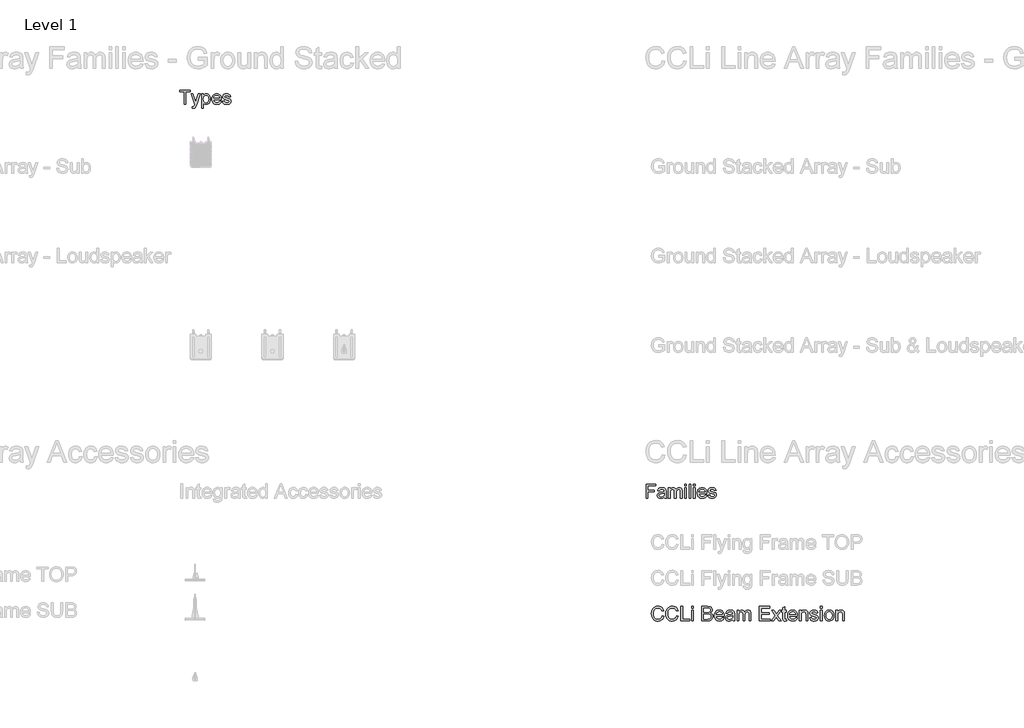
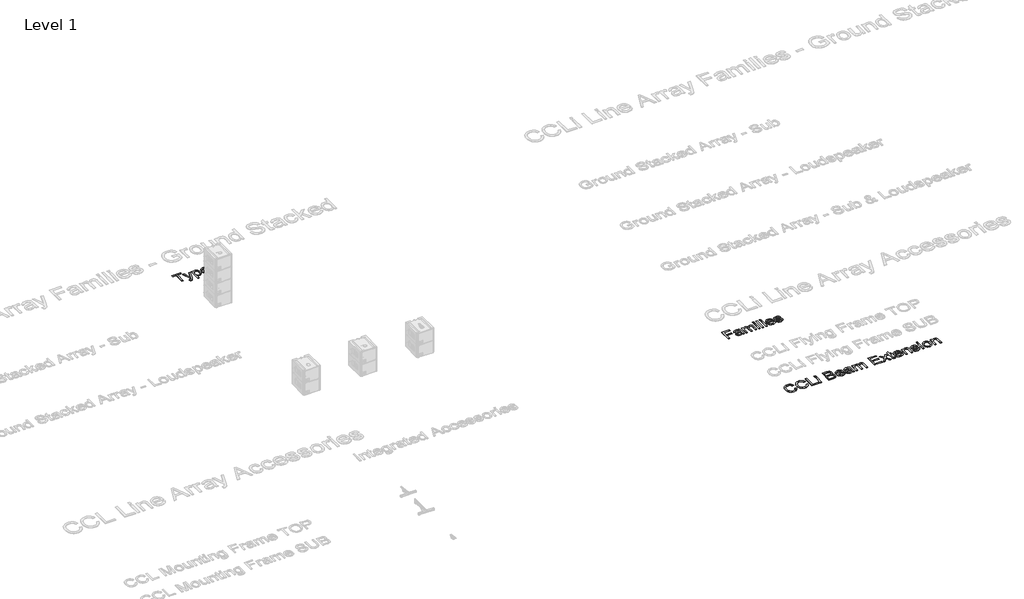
# One storey, part 11 of 31: 3 proxies.
"""IFC4 building model written with IfcOpenShell, lengths in millimetres."""

from ifc_helpers import new_model, si_unit, origin, origin_with_axes, place, context, project, spatial, polyline, outline, extrude, element, save

model = new_model("IFC4")

# Units and contexts
model_context = context("Model", 3, world=origin())
ifc_project = project(units=[si_unit("LENGTHUNIT", "METRE", prefix="MILLI")], contexts=[model_context])

# Site, building, storey
site = spatial("IfcSite", under=ifc_project)
building = spatial("IfcBuilding", under=site)
storey = spatial("IfcBuildingStorey", under=building, Name="Level 1", Elevation=0.0)

# Proxies
placement = place(None, origin())
element("IfcBuildingElementProxy", 1, Name="400mm Arial", ObjectType="400mm Arial", at=placement, inside=storey, context=model_context, shape_type="SweptSolid", body=[
    extrude(outline(polyline([(-11345.9583027, -2671.3757633), (-11345.9583027, -2328.5878845), (-11474.5037572, -2328.5878845), (-11474.5037572, -2279.6181875), (-11168.4431512, -2279.6181875), (-11168.4431512, -2328.5878845), (-11296.9886057, -2328.5878845), (-11296.9886057, -2671.3757633), (-11345.9583027, -2671.3757633)])), origin_with_axes(), (0.0, 0.0, 1.0), 5.0),
    extrude(outline(polyline([(-11119.4734542, -2781.5575815), (-11125.5946663, -2734.4051193), (-11100.7272421, -2738.7090966), (-11087.6479334, -2737.358126), (-11077.4857648, -2733.305214), (-11063.2348179, -2718.2412936), (-11049.8446663, -2682.1835284), (-11046.0189088, -2670.32368), (-11150.0795148, -2383.6787936), (-11098.5274315, -2383.6787936), (-11043.2452345, -2543.4998163), (-11024.0208027, -2607.3899678), (-11004.7963709, -2550.8643996), (-10948.0795148, -2383.6787936), (-10896.9100072, -2383.6787936), (-10997.0492118, -2678.2621269), (-11023.0643633, -2742.1522784), (-11036.3827819, -2762.5483485), (-11051.4706133, -2776.6797406), (-11068.9734542, -2784.9290303), (-11089.5369012, -2787.6787936), (-11119.4734542, -2781.5575815)])), origin_with_axes(), (0.0, 0.0, 1.0), 5.0),
    extrude(outline(polyline([(-10856.261333, -2781.5575815), (-10856.261333, -2383.6787936), (-10807.291636, -2383.6787936), (-10807.291636, -2431.6920512), (-10791.3190982, -2408.0082207), (-10773.4336815, -2391.0911989), (-10752.5833027, -2380.9409858), (-10727.7158785, -2377.5575815), (-10694.5991644, -2382.2919565), (-10665.6429618, -2396.4950815), (-10642.0667307, -2419.306161), (-10625.0899315, -2449.8643996), (-10614.832119, -2485.9460758), (-10611.4128482, -2525.3274678), (-10615.2744722, -2567.2075578), (-10626.8593444, -2604.6641156), (-10645.7968444, -2635.7962178), (-10671.7163519, -2658.7029413), (-10701.9039703, -2672.7984669), (-10733.6458027, -2677.4969754), (-10756.1579949, -2674.3526809), (-10776.2551777, -2664.9197974), (-10793.4591313, -2650.6808059), (-10807.291636, -2633.1181875), (-10807.291636, -2781.5575815), (-10856.261333, -2781.5575815)]), holes=[polyline([(-10807.291636, -2529.822733), (-10801.9953529, -2573.7233012), (-10795.374999, -2590.7240114), (-10786.1065035, -2604.4250057), (-10762.6617828, -2622.5017103), (-10749.2447314, -2627.0208864), (-10734.697886, -2628.5272784), (-10719.9418195, -2626.9670867), (-10706.2796805, -2622.2865114), (-10682.2371853, -2603.5642103), (-10672.6757802, -2589.367063), (-10665.8462052, -2571.7386894), (-10660.3825451, -2526.1882633), (-10665.7146947, -2482.526805), (-10672.3798818, -2465.3945843), (-10681.7111436, -2451.3947027), (-10705.1199978, -2432.7441345), (-10718.3846166, -2428.0814925), (-10732.6893633, -2426.5272784), (-10746.9492769, -2428.1801253), (-10760.3663283, -2433.1386657), (-10784.6718444, -2452.9728277), (-10794.5680032, -2467.6930277), (-10801.6366881, -2485.4080786), (-10805.8778991, -2506.1179804), (-10807.291636, -2529.822733)])]), origin_with_axes(), (0.0, 0.0, 1.0), 5.0),
    extrude(outline(polyline([(-10354.8958027, -2585.6787936), (-10306.8825451, -2591.8000057), (-10314.2441396, -2611.0304153), (-10324.1821427, -2627.9773258), (-10336.6965544, -2642.6407372), (-10351.7873747, -2655.0206496), (-10369.2991822, -2664.8540422), (-10389.0765555, -2671.877894), (-10435.4279997, -2677.4969754), (-10465.8128837, -2675.0729993), (-10492.8860963, -2667.801071), (-10516.6476375, -2655.6811906), (-10537.0975072, -2638.713358), (-10553.5422871, -2617.3698151), (-10565.2885584, -2592.122804), (-10572.3363212, -2562.9723246), (-10574.6855754, -2529.9183769), (-10572.3124102, -2495.7436018), (-10565.1929144, -2465.6217387), (-10553.3270882, -2439.5527874), (-10536.7149315, -2417.5367481), (-10516.3188614, -2400.0458627), (-10493.1012951, -2387.5523731), (-10467.0622326, -2380.0562794), (-10438.2016739, -2377.5575815), (-10410.2706547, -2380.0503016), (-10385.0116881, -2387.5284621), (-10362.4247741, -2399.992063), (-10342.5099125, -2417.4411042), (-10326.2534317, -2439.4093215), (-10314.6416597, -2465.4304508), (-10307.6745965, -2495.504492), (-10305.3522421, -2529.6314451), (-10305.6391739, -2542.8303087), (-10525.7158785, -2542.8303087), (-10522.8794379, -2562.3715611), (-10517.2394343, -2579.4858485), (-10508.7958678, -2594.173171), (-10497.5487383, -2606.4335284), (-10469.1305328, -2623.0038409), (-10434.4715603, -2628.5272784), (-10408.4085868, -2625.9688031), (-10386.4583027, -2618.2933769), (-10368.620708, -2605.0227803), (-10354.8958027, -2585.6787936)]), holes=[polyline([(-10525.7158785, -2493.8606118), (-10354.3219391, -2493.8606118), (-10360.9452819, -2467.9889262), (-10373.9289466, -2449.4818239), (-10387.2832317, -2439.4392103), (-10402.4786625, -2432.2659148), (-10438.3929618, -2426.5272784), (-10471.4020764, -2431.106232), (-10498.6964656, -2444.8430928), (-10517.6698321, -2466.2553798), (-10525.7158785, -2493.8606118)])]), origin_with_axes(), (0.0, 0.0, 1.0), 5.0),
    extrude(outline(polyline([(-10274.7461815, -2585.6787936), (-10225.7764845, -2579.5575815), (-10218.0532364, -2600.5036042), (-10203.1088709, -2615.9022784), (-10180.847744, -2625.3710284), (-10151.1742118, -2628.5272784), (-10121.8593444, -2625.6340493), (-10101.2480754, -2616.9543618), (-10089.0534732, -2604.3771837), (-10084.9886057, -2589.791483), (-10089.0773841, -2577.3099489), (-10101.3437194, -2567.7933769), (-10151.7480754, -2553.8293618), (-10225.4895527, -2529.870555), (-10244.1520764, -2517.8313741), (-10257.6737383, -2501.8947027), (-10265.8871616, -2483.0767576), (-10268.6249694, -2462.3937557), (-10266.4251588, -2443.4203892), (-10259.8257269, -2425.9055928), (-10249.4244485, -2410.5427851), (-10235.8190982, -2398.0253845), (-10204.6869959, -2383.5353277), (-10162.5558406, -2377.5575815), (-10130.6824978, -2379.9606354), (-10102.9696663, -2387.1697974), (-10080.6846285, -2398.4796932), (-10065.0946663, -2413.1849489), (-10054.7651209, -2432.3735142), (-10048.261333, -2457.133339), (-10097.23103, -2463.2545512), (-10103.4120196, -2447.8439214), (-10115.6424883, -2436.2351383), (-10134.0419911, -2428.9542434), (-10158.730083, -2426.5272784), (-10186.8494012, -2428.846644), (-10205.5956133, -2435.8047406), (-10216.1403576, -2445.8473542), (-10219.6552724, -2457.4202709), (-10213.8209921, -2471.6712178), (-10195.5529997, -2482.478983), (-10153.3740224, -2492.9041724), (-10081.4976019, -2515.9543618), (-10062.51228, -2526.9773258), (-10048.1178671, -2542.0651572), (-10039.0436483, -2561.2656781), (-10036.0189088, -2584.6267103), (-10039.56969, -2608.776805), (-10050.2220338, -2631.4922406), (-10067.5694533, -2650.9916487), (-10091.2054618, -2665.493661), (-10119.7551777, -2674.4961468), (-10151.8437194, -2677.4969754), (-10178.1996024, -2676.0503608), (-10201.2199031, -2671.7105171), (-10220.9046214, -2664.4774442), (-10237.2537572, -2654.3511421), (-10250.6080423, -2641.3794328), (-10261.308208, -2625.6101383), (-10269.3542544, -2607.0432585), (-10274.7461815, -2585.6787936)])), origin_with_axes(), (0.0, 0.0, 1.0), 5.0),
])
element("IfcBuildingElementProxy", 2, Name="400mm Arial", ObjectType="400mm Arial", at=placement, inside=storey, context=model_context, shape_type="SweptSolid", body=[
    extrude(outline(polyline([(1556.1023034, -13671.3757633), (1556.1023034, -13279.6181875), (1819.3144246, -13279.6181875), (1819.3144246, -13328.5878845), (1605.0720003, -13328.5878845), (1605.0720003, -13444.8909148), (1788.708364, -13444.8909148), (1788.708364, -13493.8606118), (1605.0720003, -13493.8606118), (1605.0720003, -13671.3757633), (1556.1023034, -13671.3757633)])), origin_with_axes(), (0.0, 0.0, 1.0), 5.0),
    extrude(outline(polyline([(2064.1629094, -13634.6484906), (2040.7660107, -13654.7098068), (2016.6756935, -13667.8369375), (1991.3420051, -13675.0819659), (1964.2149928, -13677.4969754), (1942.4111634, -13676.0443831), (1923.2913422, -13671.6866061), (1906.855529, -13664.4236444), (1893.1037238, -13654.2554981), (1882.2451478, -13641.8277638), (1874.4890221, -13627.7860379), (1869.8353467, -13612.1303206), (1868.2841215, -13594.8606118), (1870.6273981, -13574.5601856), (1877.6572276, -13556.1248163), (1888.5008592, -13540.3435663), (1902.285542, -13528.0054981), (1936.5738943, -13511.9373163), (1978.9441594, -13504.572733), (2029.0137617, -13496.8255739), (2063.8759776, -13487.7393996), (2064.1629094, -13476.8359906), (2060.7914606, -13454.9813504), (2050.677114, -13440.6825815), (2028.0573223, -13430.0661042), (1996.5426443, -13426.5272784), (1967.3712428, -13428.8825104), (1946.9990837, -13435.9482065), (1933.1068015, -13449.0155597), (1923.3750306, -13469.3757633), (1874.4053337, -13463.2545512), (1882.9056888, -13436.4742481), (1895.5904662, -13415.4325815), (1913.6432598, -13399.3404887), (1938.2476632, -13387.4089072), (1968.3396376, -13380.0204129), (2002.8551443, -13377.5575815), (2035.9599028, -13379.7334811), (2062.2022087, -13386.26118), (2081.9885486, -13396.0766392), (2095.7254094, -13408.1158201), (2104.8354946, -13423.0004082), (2110.7415079, -13441.352089), (2113.1326064, -13484.2005739), (2113.1326064, -13545.1257633), (2115.6193488, -13630.2010474), (2125.3750306, -13671.3757633), (2076.4053337, -13671.3757633), (2068.5625306, -13654.3511421), (2064.1629094, -13634.6484906)]), holes=[polyline([(2064.1629094, -13536.7090966), (2031.2613943, -13544.8627425), (1985.1610155, -13551.7251951), (1943.0298602, -13559.6636421), (1932.0666736, -13565.0914356), (1923.9488943, -13572.5755739), (1918.9275875, -13581.5421932), (1917.2538185, -13591.41743), (1920.9002437, -13605.9792197), (1931.8395193, -13617.9108012), (1949.8325354, -13625.8731591), (1974.6401821, -13628.5272784), (2000.9422655, -13625.5981828), (2024.1837428, -13616.8108959), (2043.0255988, -13603.8630976), (2056.1288185, -13588.4524678), (2061.9391878, -13572.5755739), (2063.8759776, -13550.5774678), (2064.1629094, -13536.7090966)])]), origin_with_axes(), (0.0, 0.0, 1.0), 5.0),
    extrude(outline(polyline([(2180.4659397, -13671.3757633), (2180.4659397, -13383.6787936), (2229.4356367, -13383.6787936), (2229.4356367, -13431.0225436), (2244.1648034, -13409.2755029), (2263.1023034, -13392.2389262), (2285.6025401, -13381.2279176), (2311.019917, -13377.5575815), (2338.2545287, -13381.2996506), (2360.0852579, -13392.525858), (2376.3925496, -13410.4949631), (2387.0568488, -13434.4657254), (2404.906399, -13409.5684124), (2425.2666026, -13391.7846175), (2448.1374596, -13381.1143405), (2473.51897, -13377.5575815), (2493.1229887, -13379.0370737), (2510.3299312, -13383.4755502), (2525.1397974, -13390.8730112), (2537.5525875, -13401.2294565), (2547.3650579, -13414.6644411), (2554.3739653, -13431.2975199), (2558.5793098, -13451.128693), (2559.9810912, -13474.1579603), (2559.9810912, -13671.3757633), (2511.0113943, -13671.3757633), (2511.0113943, -13495.1996269), (2506.4683071, -13454.3118428), (2500.0840742, -13443.0378135), (2490.0175496, -13434.1787936), (2477.0697513, -13428.4401572), (2462.0416973, -13426.5272784), (2435.5124596, -13431.4290303), (2413.8849738, -13446.134286), (2405.495207, -13457.4142931), (2399.5025164, -13471.6473068), (2394.708364, -13508.9723542), (2394.708364, -13671.3757633), (2345.738667, -13671.3757633), (2345.738667, -13489.7479224), (2342.9052153, -13462.0590019), (2334.4048602, -13442.3085284), (2319.4485392, -13430.4725909), (2297.2471897, -13426.5272784), (2278.3814227, -13429.1574868), (2260.9981367, -13437.0481118), (2246.6515458, -13450.0078656), (2236.895864, -13467.8454603), (2231.3006935, -13492.5933296), (2229.4356367, -13526.2839072), (2229.4356367, -13671.3757633), (2180.4659397, -13671.3757633)])), origin_with_axes(), (0.0, 0.0, 1.0), 5.0),
    extrude(outline(polyline([(2633.4356367, -13328.5878845), (2633.4356367, -13279.6181875), (2682.4053337, -13279.6181875), (2682.4053337, -13328.5878845), (2633.4356367, -13328.5878845)])), origin_with_axes(), (0.0, 0.0, 1.0), 5.0),
    extrude(outline(polyline([(2633.4356367, -13671.3757633), (2633.4356367, -13383.6787936), (2682.4053337, -13383.6787936), (2682.4053337, -13671.3757633), (2633.4356367, -13671.3757633)])), origin_with_axes(), (0.0, 0.0, 1.0), 5.0),
    extrude(outline(polyline([(2755.8598791, -13671.3757633), (2755.8598791, -13279.6181875), (2804.8295761, -13279.6181875), (2804.8295761, -13671.3757633), (2755.8598791, -13671.3757633)])), origin_with_axes(), (0.0, 0.0, 1.0), 5.0),
    extrude(outline(polyline([(2878.2841215, -13328.5878845), (2878.2841215, -13279.6181875), (2927.2538185, -13279.6181875), (2927.2538185, -13328.5878845), (2878.2841215, -13328.5878845)])), origin_with_axes(), (0.0, 0.0, 1.0), 5.0),
    extrude(outline(polyline([(2878.2841215, -13671.3757633), (2878.2841215, -13383.6787936), (2927.2538185, -13383.6787936), (2927.2538185, -13671.3757633), (2878.2841215, -13671.3757633)])), origin_with_axes(), (0.0, 0.0, 1.0), 5.0),
    extrude(outline(polyline([(3202.1345003, -13585.6787936), (3250.1477579, -13591.8000057), (3242.7861634, -13611.0304153), (3232.8481604, -13627.9773258), (3220.3337487, -13642.6407372), (3205.2429284, -13655.0206496), (3187.7311208, -13664.8540422), (3167.9537475, -13671.877894), (3121.6023034, -13677.4969754), (3091.2174194, -13675.0729993), (3064.1442068, -13667.801071), (3040.3826656, -13655.6811906), (3019.9327958, -13638.713358), (3003.488016, -13617.3698151), (2991.7417446, -13592.122804), (2984.6939819, -13562.9723246), (2982.3447276, -13529.9183769), (2984.7178928, -13495.7436018), (2991.8373886, -13465.6217387), (3003.7032148, -13439.5527874), (3020.3153715, -13417.5367481), (3040.7114416, -13400.0458627), (3063.9290079, -13387.5523731), (3089.9680704, -13380.0562794), (3118.8286291, -13377.5575815), (3146.7596483, -13380.0503016), (3172.0186149, -13387.5284621), (3194.605529, -13399.992063), (3214.5203905, -13417.4411042), (3230.7768713, -13439.4093215), (3242.3886433, -13465.4304508), (3249.3557065, -13495.504492), (3251.6780609, -13529.6314451), (3251.3911291, -13542.8303087), (3031.3144246, -13542.8303087), (3034.1508652, -13562.3715611), (3039.7908687, -13579.4858485), (3048.2344352, -13594.173171), (3059.4815647, -13606.4335284), (3087.8997702, -13623.0038409), (3122.5587428, -13628.5272784), (3148.6217162, -13625.9688031), (3170.5720003, -13618.2933769), (3188.409595, -13605.0227803), (3202.1345003, -13585.6787936)]), holes=[polyline([(3031.3144246, -13493.8606118), (3202.708364, -13493.8606118), (3196.0850212, -13467.9889262), (3183.1013564, -13449.4818239), (3169.7470714, -13439.4392103), (3154.5516405, -13432.2659148), (3118.6373412, -13426.5272784), (3085.6282267, -13431.106232), (3058.3338375, -13444.8430928), (3039.360471, -13466.2553798), (3031.3144246, -13493.8606118)])]), origin_with_axes(), (0.0, 0.0, 1.0), 5.0),
    extrude(outline(polyline([(3282.2841215, -13585.6787936), (3331.2538185, -13579.5575815), (3338.9770666, -13600.5036042), (3353.9214321, -13615.9022784), (3376.182559, -13625.3710284), (3405.8560912, -13628.5272784), (3435.1709587, -13625.6340493), (3455.7822276, -13616.9543618), (3467.9768299, -13604.3771837), (3472.0416973, -13589.791483), (3467.9529189, -13577.3099489), (3455.6865837, -13567.7933769), (3405.2822276, -13553.8293618), (3331.5407503, -13529.870555), (3312.8782267, -13517.8313741), (3299.3565647, -13501.8947027), (3291.1431414, -13483.0767576), (3288.4053337, -13462.3937557), (3290.6051443, -13443.4203892), (3297.2045761, -13425.9055928), (3307.6058545, -13410.5427851), (3321.2112049, -13398.0253845), (3352.3433071, -13383.5353277), (3394.4744625, -13377.5575815), (3426.3478053, -13379.9606354), (3454.0606367, -13387.1697974), (3476.3456746, -13398.4796932), (3491.9356367, -13413.1849489), (3502.2651821, -13432.3735142), (3508.76897, -13457.133339), (3459.7992731, -13463.2545512), (3453.6182835, -13447.8439214), (3441.3878147, -13436.2351383), (3422.9883119, -13428.9542434), (3398.30022, -13426.5272784), (3370.1809018, -13428.846644), (3351.4346897, -13435.8047406), (3340.8899454, -13445.8473542), (3337.3750306, -13457.4202709), (3343.2093109, -13471.6712178), (3361.4773034, -13482.478983), (3403.6562806, -13492.9041724), (3475.5327011, -13515.9543618), (3494.5180231, -13526.9773258), (3508.9124359, -13542.0651572), (3517.9866547, -13561.2656781), (3521.0113943, -13584.6267103), (3517.460613, -13608.776805), (3506.8082693, -13631.4922406), (3489.4608498, -13650.9916487), (3465.8248412, -13665.493661), (3437.2751253, -13674.4961468), (3405.1865837, -13677.4969754), (3378.8307006, -13676.0503608), (3355.8104, -13671.7105171), (3336.1256817, -13664.4774442), (3319.7765458, -13654.3511421), (3306.4222607, -13641.3794328), (3295.722095, -13625.6101383), (3287.6760486, -13607.0432585), (3282.2841215, -13585.6787936)])), origin_with_axes(), (0.0, 0.0, 1.0), 5.0),
])
element("IfcBuildingElementProxy", 3, Name="400mm Arial", ObjectType="400mm Arial", at=placement, inside=storey, context=model_context, shape_type="SweptSolid", body=[
    extrude(outline(polyline([(2002.8770376, -16954.6815806), (2053.1051927, -16967.6310268), (2043.1662474, -16998.8672739), (2029.928627, -17026.1610523), (2013.3923313, -17049.5123619), (1993.5573604, -17068.9212029), (1970.871304, -17084.1791086), (1945.7817519, -17095.0776127), (1918.2887042, -17101.6167152), (1888.3921607, -17103.796416), (1857.7629189, -17102.1470784), (1830.1319154, -17097.1990655), (1805.4991501, -17088.9523775), (1783.8646231, -17077.4070142), (1764.9309631, -17062.734654), (1748.4007988, -17045.106975), (1734.2741302, -17024.5239774), (1722.5509573, -17000.9856611), (1706.7688197, -16949.1142998), (1701.5081071, -16893.5641185), (1707.4555327, -16834.9727794), (1714.8898147, -16808.6753481), (1725.2978095, -16784.3767423), (1738.4465251, -16762.4785666), (1754.1029697, -16743.3824253), (1772.2671432, -16727.0883186), (1792.9390457, -16713.5962464), (1815.4166356, -16703.0165734), (1838.9978715, -16695.4596641), (1889.4712812, -16689.4141366), (1918.1997994, -16691.3700426), (1944.5432159, -16697.2377604), (1968.5015308, -16707.0172901), (1990.0747442, -16720.7086317), (2008.9072366, -16737.9500345), (2024.643389, -16758.379748), (2037.2832012, -16781.9977721), (2046.8266733, -16808.8041068), (1996.5985182, -16820.7725344), (1979.1854371, -16784.1437504), (1955.3957347, -16759.0174101), (1924.9351055, -16744.4860713), (1887.5092439, -16739.6422917), (1844.3689486, -16745.0133688), (1825.6866746, -16751.7272152), (1808.9296497, -16761.1266002), (1782.0374759, -16786.2897287), (1764.5385557, -16818.8104971), (1754.9368356, -16855.5741711), (1751.7362622, -16893.4660166), (1755.5254468, -16939.8681989), (1766.8930004, -16979.9918619), (1786.2681188, -17012.3041638), (1814.0799977, -17035.272263), (1847.4223692, -17048.9942614), (1883.3889656, -17053.5682609), (1905.2258277, -17052.0108938), (1925.3152503, -17047.3387925), (1943.6572334, -17039.5519569), (1960.2517771, -17028.6503871), (1974.7064738, -17014.683134), (1986.6289161, -16997.6992486), (1996.0191041, -16977.6987308), (2002.8770376, -16954.6815806)])), origin_with_axes(), (0.0, 0.0, 1.0), 5.0),
    extrude(outline(polyline([(2404.7022782, -16954.6815806), (2454.9304333, -16967.6310268), (2444.991488, -16998.8672739), (2431.7538676, -17026.1610523), (2415.2175719, -17049.5123619), (2395.382601, -17068.9212029), (2372.6965446, -17084.1791086), (2347.6069925, -17095.0776127), (2320.1139448, -17101.6167152), (2290.2174013, -17103.796416), (2259.5881595, -17102.1470784), (2231.957156, -17097.1990655), (2207.3243907, -17088.9523775), (2185.6898637, -17077.4070142), (2166.7562037, -17062.734654), (2150.2260394, -17045.106975), (2136.0993708, -17024.5239774), (2124.3761979, -17000.9856611), (2108.5940603, -16949.1142998), (2103.3333477, -16893.5641185), (2109.2807733, -16834.9727794), (2116.7150553, -16808.6753481), (2127.1230501, -16784.3767423), (2140.2717657, -16762.4785666), (2155.9282103, -16743.3824253), (2174.0923838, -16727.0883186), (2194.7642863, -16713.5962464), (2217.2418762, -16703.0165734), (2240.8231121, -16695.4596641), (2291.2965218, -16689.4141366), (2320.02504, -16691.3700426), (2346.3684565, -16697.2377604), (2370.3267714, -16707.0172901), (2391.8999848, -16720.7086317), (2410.7324772, -16737.9500345), (2426.4686296, -16758.379748), (2439.1084418, -16781.9977721), (2448.6519139, -16808.8041068), (2398.4237588, -16820.7725344), (2381.0106777, -16784.1437504), (2357.2209753, -16759.0174101), (2326.7603461, -16744.4860713), (2289.3344845, -16739.6422917), (2246.1941892, -16745.0133688), (2227.5119152, -16751.7272152), (2210.7548903, -16761.1266002), (2183.8627165, -16786.2897287), (2166.3637962, -16818.8104971), (2156.7620762, -16855.5741711), (2153.5615028, -16893.4660166), (2157.3506874, -16939.8681989), (2168.718241, -16979.9918619), (2188.0933594, -17012.3041638), (2215.9052383, -17035.272263), (2249.2476098, -17048.9942614), (2285.2142062, -17053.5682609), (2307.0510683, -17052.0108938), (2327.1404909, -17047.3387925), (2345.482474, -17039.5519569), (2362.0770177, -17028.6503871), (2376.5317144, -17014.683134), (2388.4541567, -16997.6992486), (2397.8443447, -16977.6987308), (2404.7022782, -16954.6815806)])), origin_with_axes(), (0.0, 0.0, 1.0), 5.0),
    extrude(outline(polyline([(2523.9941465, -17097.5178966), (2523.9941465, -16695.692656), (2574.2223016, -16695.692656), (2574.2223016, -17047.2897415), (2775.1349219, -17047.2897415), (2775.1349219, -17097.5178966), (2523.9941465, -17097.5178966)])), origin_with_axes(), (0.0, 0.0, 1.0), 5.0),
    extrude(outline(polyline([(2825.3630769, -17097.5178966), (2825.3630769, -16802.4274855), (2875.591232, -16802.4274855), (2875.591232, -17097.5178966), (2825.3630769, -17097.5178966)])), origin_with_axes(), (0.0, 0.0, 1.0), 5.0),
    extrude(outline(polyline([(2825.3630769, -16745.9208111), (2825.3630769, -16695.692656), (2875.591232, -16695.692656), (2875.591232, -16745.9208111), (2825.3630769, -16745.9208111)])), origin_with_axes(), (0.0, 0.0, 1.0), 5.0),
    extrude(outline(polyline([(3114.1749686, -17097.5178966), (3114.1749686, -16695.692656), (3267.5081842, -16695.692656), (3309.6797236, -16698.6479747), (3342.6051622, -16707.5139308), (3367.841867, -16722.5112535), (3386.9472053, -16743.8606719), (3398.9769466, -16768.9747494), (3402.9868603, -16795.2660494), (3399.6146087, -16819.4604219), (3389.4978538, -16842.207792), (3372.5630193, -16862.1102079), (3348.7365287, -16877.7697182), (3377.1983324, -16892.6321508), (3398.2289198, -16915.2446307), (3411.2151543, -16944.1111046), (3415.5438991, -16977.735519), (3412.5885804, -17005.7558643), (3403.7226243, -17031.7405959), (3390.4911352, -17053.838041), (3374.4392175, -17070.1965271), (3354.7820562, -17082.0423273), (3330.7348365, -17090.6017151), (3301.5127433, -17095.7888512), (3266.3309618, -17097.5178966), (3114.1749686, -17097.5178966)]), holes=[polyline([(3164.4031237, -16858.93416), (3256.1283678, -16858.93416), (3309.6919863, -16854.6176779), (3328.4417053, -16847.1741989), (3341.9184491, -16836.0273744), (3350.0486412, -16821.3488828), (3352.7587052, -16803.3104023), (3350.2325822, -16785.7992194), (3342.6542131, -16770.5443793), (3330.3669545, -16758.6372654), (3313.7141628, -16751.1692609), (3288.1586269, -16747.2329235), (3249.1631354, -16745.9208111), (3164.4031237, -16745.9208111), (3164.4031237, -16858.93416)]), polyline([(3164.4031237, -17047.2897415), (3267.4100823, -17047.2897415), (3304.6887912, -17045.3277042), (3336.2285409, -17034.3893462), (3347.804561, -17024.9593044), (3357.1242382, -17012.0711719), (3363.2678676, -16996.301297), (3365.315744, -16978.2260283), (3362.9122483, -16957.2322291), (3355.7017612, -16939.1814859), (3343.1079342, -16925.06708), (3324.5544189, -16915.8822929), (3298.2753817, -16910.8423095), (3262.5049891, -16909.1623151), (3164.4031237, -16909.1623151), (3164.4031237, -17047.2897415)])]), origin_with_axes(), (0.0, 0.0, 1.0), 5.0),
    extrude(outline(polyline([(3684.9316214, -17009.6186252), (3734.1787578, -17015.8971446), (3726.6279799, -17035.6217509), (3716.4345829, -17053.0041752), (3703.598567, -17068.0444174), (3688.119932, -17080.7424776), (3670.1580936, -17090.8285757), (3649.8724673, -17098.0329314), (3602.3298508, -17103.796416), (3571.1641144, -17101.3101468), (3543.3951551, -17093.8513394), (3519.0229729, -17081.4199936), (3498.0475679, -17064.0161096), (3481.1801784, -17042.1240652), (3469.132043, -17016.2282384), (3461.9031618, -16986.3286292), (3459.4935348, -16952.4252377), (3461.9276873, -16917.3722149), (3469.2301449, -16886.4762587), (3481.4009076, -16859.737369), (3498.4399753, -16837.1555459), (3519.3601981, -16819.2151673), (3543.1744259, -16806.4006111), (3569.8826588, -16798.7118774), (3599.4848967, -16796.1489662), (3628.133707, -16798.705746), (3654.0417965, -16806.3760856), (3677.2091652, -16819.159985), (3697.635813, -16837.057444), (3714.3100644, -16859.5902162), (3726.220244, -16886.280055), (3733.3663518, -16917.1269603), (3735.7483877, -16952.1309321), (3735.4540821, -16965.6689895), (3509.7216898, -16965.6689895), (3512.6310233, -16985.7124269), (3518.4159677, -17003.2665294), (3527.076523, -17018.3312971), (3538.6126892, -17030.90673), (3552.3868042, -17040.8211498), (3567.7612059, -17047.9028782), (3603.3108694, -17053.5682609), (3630.0436277, -17050.944036), (3652.5580058, -17043.0713613), (3670.8540037, -17029.4597275), (3684.9316214, -17009.6186252)]), holes=[polyline([(3509.7216898, -16915.4408345), (3685.5202326, -16915.4408345), (3678.7266784, -16888.9042799), (3665.4093502, -16869.9215689), (3651.7118772, -16859.6208731), (3636.1259434, -16852.2632332), (3618.6515486, -16847.8486492), (3599.2886929, -16846.3771212), (3565.4312866, -16851.073748), (3537.4354668, -16865.1636285), (3517.9745093, -16887.1261836), (3509.7216898, -16915.4408345)])]), origin_with_axes(), (0.0, 0.0, 1.0), 5.0),
    extrude(outline(polyline([(3974.3321243, -17059.8467803), (3950.3339555, -17080.4236466), (3925.6245481, -17093.8881276), (3899.6398165, -17101.3193439), (3871.815675, -17103.796416), (3849.4515153, -17102.3064939), (3829.8403393, -17097.8367277), (3812.9821469, -17090.3871173), (3798.876938, -17079.9576627), (3787.7393106, -17067.2105516), (3779.7838625, -17052.8079715), (3775.0105936, -17036.7499224), (3773.419504, -17019.0364043), (3775.8229997, -16998.2142834), (3783.0334868, -16979.3051488), (3794.1557858, -16963.118341), (3808.2947171, -16950.4632004), (3824.9107206, -16940.8982685), (3843.4642359, -16933.982087), (3886.9233622, -16926.4282434), (3938.2796888, -16918.4819923), (3974.0378187, -16909.1623151), (3974.3321243, -16897.9787024), (3970.8740335, -16875.5624262), (3960.4997613, -16860.8961973), (3937.2986701, -16850.0068903), (3904.9741055, -16846.3771212), (3875.0530365, -16848.7928797), (3854.1573392, -16856.040155), (3839.9080432, -16869.4433223), (3829.9261784, -16890.3267569), (3779.6980234, -16884.0482375), (3788.4168266, -16856.5797152), (3801.4275865, -16834.9973049), (3819.9443136, -16818.491666), (3845.1810185, -16806.2534583), (3876.0463179, -16798.6750892), (3911.4488286, -16796.1489662), (3945.4043367, -16798.3807836), (3972.321036, -16805.0762359), (3992.6158594, -16815.1439398), (4006.7057399, -16827.4925121), (4016.0499425, -16842.7596149), (4022.1077327, -16861.5829104), (4024.5602794, -16905.5325461), (4024.5602794, -16968.0234343), (4027.1109279, -17055.2850436), (4037.1173181, -17097.5178966), (3986.889163, -17097.5178966), (3978.8448101, -17080.0557646), (3974.3321243, -17059.8467803)]), holes=[polyline([(3974.3321243, -16959.3904702), (3940.5850826, -16967.7536542), (3893.2999835, -16974.792463), (3850.0861118, -16982.9349178), (3838.8411855, -16988.5021987), (3830.5147896, -16996.1786697), (3825.3644417, -17005.3757195), (3823.6476591, -17015.5047372), (3827.3877927, -17030.4407462), (3838.6081935, -17042.6789539), (3857.0636069, -17050.8459342), (3882.5087783, -17053.5682609), (3909.4867913, -17050.5638913), (3933.3255445, -17041.5507824), (3952.651612, -17028.2702424), (3966.0915676, -17012.4635793), (3972.0512559, -16996.1786697), (3974.0378187, -16973.6152406), (3974.3321243, -16959.3904702)])]), origin_with_axes(), (0.0, 0.0, 1.0), 5.0),
    extrude(outline(polyline([(4093.6239926, -17097.5178966), (4093.6239926, -16802.4274855), (4143.8521477, -16802.4274855), (4143.8521477, -16850.9879089), (4158.9598349, -16828.6819973), (4178.3840043, -16811.2076025), (4201.4624681, -16799.9136252), (4227.5330388, -16796.1489662), (4255.467545, -16799.9872016), (4277.8592958, -16811.5019081), (4294.5856638, -16829.9327961), (4305.5240218, -16854.5195761), (4323.8322824, -16828.9824342), (4344.715717, -16810.7416186), (4368.1743256, -16799.7971293), (4394.2081081, -16796.1489662), (4414.3159248, -16797.6664794), (4431.9650635, -16802.2190191), (4447.1555243, -16809.8065852), (4459.887307, -16820.4291778), (4469.9519452, -16834.2094242), (4477.1409726, -16851.2699518), (4481.4543889, -16871.6107604), (4482.8921944, -16895.2318502), (4482.8921944, -17097.5178966), (4432.6640393, -17097.5178966), (4432.6640393, -16916.8142606), (4431.4990797, -16891.7614967), (4428.0042007, -16874.8757131), (4421.4559012, -16863.3119557), (4411.1306799, -16854.2252705), (4397.8501399, -16848.3391585), (4382.4358843, -16846.3771212), (4355.2248794, -16851.4048418), (4333.041595, -16866.4880036), (4324.436222, -16878.0578924), (4318.289527, -16892.6566762), (4313.372171, -16930.9409292), (4313.372171, -17097.5178966), (4263.144016, -17097.5178966), (4263.144016, -16911.2224543), (4260.2377482, -16882.8219642), (4251.5189449, -16862.563929), (4236.1782657, -16850.4238232), (4213.4063702, -16846.3771212), (4194.0557773, -16849.0749225), (4176.2257632, -16857.1683264), (4161.5104834, -16870.4611292), (4151.5040932, -16888.7571271), (4145.765134, -16914.1409847), (4143.8521477, -16948.6973668), (4143.8521477, -17097.5178966), (4093.6239926, -17097.5178966)])), origin_with_axes(), (0.0, 0.0, 1.0), 5.0),
    extrude(outline(polyline([(4721.475931, -17097.5178966), (4721.475931, -16695.692656), (5010.2878227, -16695.692656), (5010.2878227, -16745.9208111), (4771.7040861, -16745.9208111), (4771.7040861, -16865.2126794), (4997.7307839, -16865.2126794), (4997.7307839, -16915.4408345), (4771.7040861, -16915.4408345), (4771.7040861, -17047.2897415), (5016.5663421, -17047.2897415), (5016.5663421, -17097.5178966), (4721.475931, -17097.5178966)])), origin_with_axes(), (0.0, 0.0, 1.0), 5.0),
    extrude(outline(polyline([(5054.2374584, -17097.5178966), (5161.5608991, -16949.0897743), (5060.5159778, -16802.4274855), (5120.7505231, -16802.4274855), (5169.5071502, -16873.1589305), (5192.3648848, -16906.4154628), (5212.1814616, -16879.1431443), (5267.7071175, -16802.4274855), (5328.1378665, -16802.4274855), (5221.9916482, -16949.1878762), (5324.2137919, -17097.5178966), (5263.8811447, -17097.5178966), (5202.2731732, -17008.2451991), (5191.0895606, -16991.8621876), (5114.6682075, -17097.5178966), (5054.2374584, -17097.5178966)])), origin_with_axes(), (0.0, 0.0, 1.0), 5.0),
    extrude(outline(polyline([(5474.8982571, -17055.6284001), (5481.1767765, -17098.9894246), (5443.6037621, -17103.796416), (5419.4952287, -17101.7117514), (5401.5180618, -17095.4577574), (5388.8138703, -17085.8192492), (5380.5242626, -17073.5810415), (5375.9625259, -17052.5627168), (5374.441947, -17016.5838577), (5374.441947, -16852.6556406), (5336.7708307, -16852.6556406), (5336.7708307, -16802.4274855), (5374.441947, -16802.4274855), (5374.441947, -16730.715022), (5424.6701021, -16701.1863605), (5424.6701021, -16802.4274855), (5474.8982571, -16802.4274855), (5474.8982571, -16852.6556406), (5424.6701021, -16852.6556406), (5424.6701021, -17015.1123297), (5427.3188524, -17041.0112221), (5435.9027656, -17050.1837466), (5453.0215412, -17053.5682609), (5474.8982571, -17055.6284001)])), origin_with_axes(), (0.0, 0.0, 1.0), 5.0),
    extrude(outline(polyline([(5731.7289407, -17009.6186252), (5780.9760771, -17015.8971446), (5773.4252992, -17035.6217509), (5763.2319022, -17053.0041752), (5750.3958863, -17068.0444174), (5734.9172513, -17080.7424776), (5716.9554129, -17090.8285757), (5696.6697866, -17098.0329314), (5649.1271701, -17103.796416), (5617.9614337, -17101.3101468), (5590.1924744, -17093.8513394), (5565.8202922, -17081.4199936), (5544.8448872, -17064.0161096), (5527.9774977, -17042.1240652), (5515.9293623, -17016.2282384), (5508.7004811, -16986.3286292), (5506.2908541, -16952.4252377), (5508.7250066, -16917.3722149), (5516.0274642, -16886.4762587), (5528.1982269, -16859.737369), (5545.2372946, -16837.1555459), (5566.1575174, -16819.2151673), (5589.9717452, -16806.4006111), (5616.6799781, -16798.7118774), (5646.282216, -16796.1489662), (5674.9310263, -16798.705746), (5700.8391158, -16806.3760856), (5724.0064845, -16819.159985), (5744.4331323, -16837.057444), (5761.1073837, -16859.5902162), (5773.0175633, -16886.280055), (5780.1636711, -16917.1269603), (5782.545707, -16952.1309321), (5782.2514014, -16965.6689895), (5556.5190091, -16965.6689895), (5559.4283426, -16985.7124269), (5565.213287, -17003.2665294), (5573.8738423, -17018.3312971), (5585.4100085, -17030.90673), (5599.1841235, -17040.8211498), (5614.5585252, -17047.9028782), (5650.1081887, -17053.5682609), (5676.840947, -17050.944036), (5699.3553251, -17043.0713613), (5717.651323, -17029.4597275), (5731.7289407, -17009.6186252)]), holes=[polyline([(5556.5190091, -16915.4408345), (5732.3175519, -16915.4408345), (5725.5239977, -16888.9042799), (5712.2066695, -16869.9215689), (5698.5091965, -16859.6208731), (5682.9232627, -16852.2632332), (5665.4488679, -16847.8486492), (5646.0860122, -16846.3771212), (5612.2286059, -16851.073748), (5584.2327861, -16865.1636285), (5564.7718286, -16887.1261836), (5556.5190091, -16915.4408345)])]), origin_with_axes(), (0.0, 0.0, 1.0), 5.0),
    extrude(outline(polyline([(5832.773862, -17097.5178966), (5832.773862, -16802.4274855), (5883.0020171, -16802.4274855), (5883.0020171, -16843.630269), (5900.4518864, -16822.857199), (5921.4088974, -16808.0192919), (5945.8730501, -16799.1165476), (5973.8443445, -16796.1489662), (5998.6028027, -16798.5401991), (6021.2765964, -16805.713898), (6040.1857309, -16816.7748834), (6053.650212, -16830.8279756), (6062.7859482, -16847.8363865), (6068.7088483, -16867.7633279), (6071.3575987, -16916.3237513), (6071.3575987, -17097.5178966), (6021.1294436, -17097.5178966), (6021.1294436, -16923.09278), (6019.6824411, -16897.1203111), (6015.3414335, -16878.6526349), (6007.3338688, -16865.4211459), (5994.8871946, -16855.1572382), (5978.9333787, -16848.5721505), (5960.4043889, -16846.3771212), (5930.986092, -16851.30674), (5905.9088027, -16866.0955962), (5895.887084, -16878.168257), (5888.7287135, -16894.6677645), (5884.4336912, -16915.5941186), (5883.0020171, -16940.9473195), (5883.0020171, -17097.5178966), (5832.773862, -17097.5178966)])), origin_with_axes(), (0.0, 0.0, 1.0), 5.0),
    extrude(outline(polyline([(6121.5857537, -17009.6186252), (6171.8139088, -17003.3401058), (6179.7356344, -17024.8244144), (6195.0640509, -17040.6188147), (6217.8972601, -17050.3308994), (6248.3333638, -17053.5682609), (6278.4015855, -17050.6006795), (6299.5425375, -17041.6979352), (6312.0505254, -17028.7975399), (6316.2198546, -17013.8370054), (6312.0259999, -17001.034712), (6299.4444357, -16991.2735764), (6247.7447526, -16976.9507041), (6172.1082144, -16952.3761868), (6152.9660879, -16940.0276145), (6139.0969367, -16923.6813912), (6130.672439, -16904.3798491), (6127.8642731, -16883.1653208), (6130.120616, -16863.7043632), (6136.8896447, -16845.7394591), (6147.5582226, -16829.981847), (6161.5132129, -16817.1427654), (6193.4453701, -16802.2803327), (6214.3288047, -16797.6818078), (6236.6592418, -16796.1489662), (6269.3516885, -16798.6137755), (6297.776704, -16806.0082036), (6320.6344386, -16817.6087492), (6336.6250426, -16832.691911), (6347.2200441, -16852.3735978), (6353.8909709, -16877.7697182), (6303.6628159, -16884.0482375), (6297.3229828, -16868.2415745), (6284.7782068, -16856.3344606), (6265.9058604, -16848.8664561), (6240.5833164, -16846.3771212), (6211.741368, -16848.7560915), (6192.5134024, -16855.8930022), (6181.6976717, -16866.193698), (6178.0924282, -16878.0640238), (6184.076642, -16892.6812017), (6202.8140983, -16903.7667125), (6246.0770209, -16914.4598158), (6319.8005727, -16938.1023654), (6339.273793, -16949.4086054), (6354.0381237, -16964.8841746), (6363.3455382, -16984.5781241), (6366.4480097, -17008.5395047), (6362.805978, -17033.3102257), (6351.8798827, -17056.6094187), (6334.0866569, -17076.6099365), (6309.8432334, -17091.4846319), (6280.5598266, -17100.71847), (6247.6466507, -17103.796416), (6220.6134555, -17102.3126253), (6197.0015627, -17097.8612531), (6176.8109726, -17090.4422996), (6160.041685, -17080.0557646), (6146.344212, -17066.7506991), (6135.3690658, -17050.576154), (6127.1162464, -17031.5321294), (6121.5857537, -17009.6186252)])), origin_with_axes(), (0.0, 0.0, 1.0), 5.0),
    extrude(outline(polyline([(6422.9546842, -16745.9208111), (6422.9546842, -16695.692656), (6473.1828393, -16695.692656), (6473.1828393, -16745.9208111), (6422.9546842, -16745.9208111)])), origin_with_axes(), (0.0, 0.0, 1.0), 5.0),
    extrude(outline(polyline([(6422.9546842, -17097.5178966), (6422.9546842, -16802.4274855), (6473.1828393, -16802.4274855), (6473.1828393, -17097.5178966), (6422.9546842, -17097.5178966)])), origin_with_axes(), (0.0, 0.0, 1.0), 5.0),
    extrude(outline(polyline([(6535.9680331, -16949.9726911), (6538.6842285, -16911.7558831), (6546.8328147, -16878.8243132), (6560.4137917, -16851.1779813), (6579.4271595, -16828.8168873), (6598.5692859, -16814.5246718), (6619.6979752, -16804.3159465), (6642.8132272, -16798.1907112), (6667.915042, -16796.1489662), (6695.6257533, -16798.6352353), (6720.6815829, -16806.0940428), (6743.0825307, -16818.5253885), (6762.8285968, -16835.9292726), (6778.9448939, -16857.7170837), (6790.4565346, -16883.3002108), (6797.3635191, -16912.6786538), (6799.6658472, -16945.8524127), (6795.5946198, -16996.5956026), (6783.3809376, -17035.2232121), (6763.3804198, -17064.1509996), (6735.9486857, -17085.7947237), (6703.3666036, -17099.2959929), (6667.915042, -17103.796416), (6639.7996605, -17101.3193439), (6614.5108391, -17093.8881276), (6592.0485776, -17081.5027671), (6572.4128761, -17064.1632624), (6556.4682573, -17042.1639191), (6545.0792438, -17015.7990427), (6538.2458358, -16985.0686334), (6535.9680331, -16949.9726911)]), holes=[polyline([(6586.1961882, -16949.8745892), (6587.649322, -16974.2375743), (6592.0087237, -16995.3325411), (6599.2743931, -17013.1594894), (6609.4463303, -17027.7184194), (6621.819428, -17039.0277251), (6635.6885793, -17047.1058005), (6651.0537839, -17051.9526458), (6667.915042, -17053.5682609), (6684.690461, -17051.9434488), (6699.994352, -17047.0690123), (6713.826715, -17038.9449516), (6726.1875501, -17027.5712666), (6736.3594872, -17012.8682495), (6743.6251566, -16994.7561926), (6747.9845583, -16973.2350959), (6749.4376922, -16948.3049594), (6747.9753612, -16924.7145264), (6743.5883684, -16904.1713827), (6736.2767138, -16886.6755281), (6726.0403973, -16872.2269628), (6713.633577, -16860.9176571), (6699.810411, -16852.8395816), (6684.5708994, -16847.9927363), (6667.915042, -16846.3771212), (6651.0537839, -16847.986605), (6635.6885793, -16852.8150562), (6621.819428, -16860.8624748), (6609.4463303, -16872.1288609), (6599.2743931, -16886.6448713), (6592.0087237, -16904.4411628), (6587.649322, -16925.5177354), (6586.1961882, -16949.8745892)])]), origin_with_axes(), (0.0, 0.0, 1.0), 5.0),
    extrude(outline(polyline([(6856.1725217, -17097.5178966), (6856.1725217, -16802.4274855), (6906.4006768, -16802.4274855), (6906.4006768, -16843.630269), (6923.8505461, -16822.857199), (6944.8075571, -16808.0192919), (6969.2717097, -16799.1165476), (6997.2430041, -16796.1489662), (7022.0014624, -16798.5401991), (7044.675256, -16805.713898), (7063.5843906, -16816.7748834), (7077.0488716, -16830.8279756), (7086.1846078, -16847.8363865), (7092.1075079, -16867.7633279), (7094.7562583, -16916.3237513), (7094.7562583, -17097.5178966), (7044.5281032, -17097.5178966), (7044.5281032, -16923.09278), (7043.0811007, -16897.1203111), (7038.7400932, -16878.6526349), (7030.7325284, -16865.4211459), (7018.2858542, -16855.1572382), (7002.3320384, -16848.5721505), (6983.8030486, -16846.3771212), (6954.3847517, -16851.30674), (6929.3074623, -16866.0955962), (6919.2857437, -16878.168257), (6912.1273732, -16894.6677645), (6907.8323509, -16915.5941186), (6906.4006768, -16940.9473195), (6906.4006768, -17097.5178966), (6856.1725217, -17097.5178966)])), origin_with_axes(), (0.0, 0.0, 1.0), 5.0),
])

save(model, "model.ifc")
